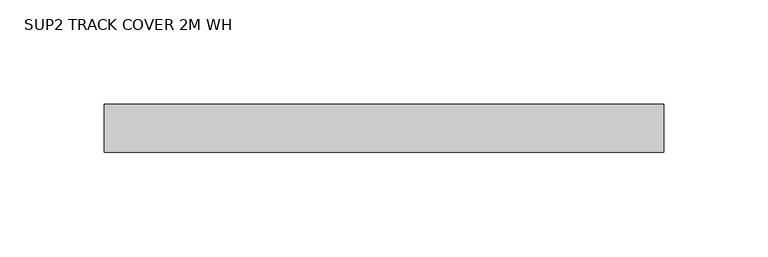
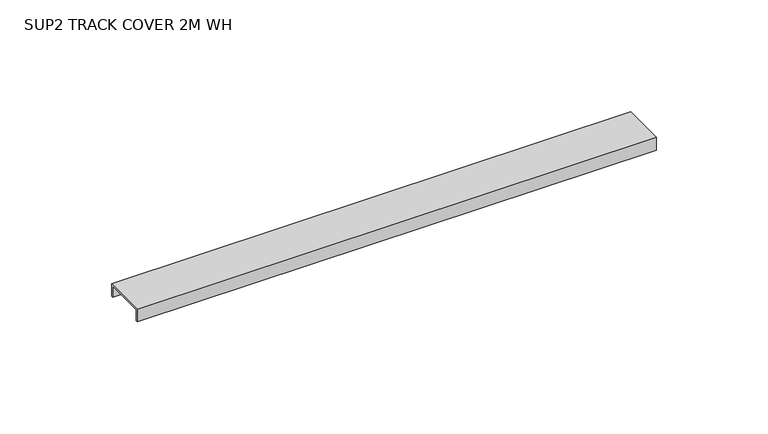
"""IFC4 building model written with IfcOpenShell, lengths in millimetres: light fixture geometry, Zumtobel SUP2 TRACK COVER 2M WH : SUP2 TRACK COVER 2M WH."""

from ifc_helpers import new_model, si_unit, frame, origin, place, context, project, spatial, polyline, outline, extrude, source, transform, mapped, element, save


def sup2_track_cover_2m_wh_c25d9a2b(model_context):
    return source(origin(), model_context, "Body", "SweptSolid", [
        extrude(outline(polyline([(-11.5, 0.0), (11.5, 0.0), (11.5, -7.0), (10.5, -7.0), (10.5, -1.0), (-10.5, -1.0), (-10.5, -7.0), (-11.5, -7.0), (-11.5, 0.0)])), frame((399.5000048, 0.0, 0.0), z_axis=(1.0, 0.0, 0.0), x_axis=(0.0, 1.0, 0.0)), (0.0, 0.0, 1.0), 268.2173497),
    ])


if __name__ == "__main__":
    model = new_model("IFC4")
    model_context = context("Model", 3, world=origin())
    ifc_project = project(units=[si_unit("LENGTHUNIT", "METRE", prefix="MILLI")], contexts=[model_context])
    site = spatial("IfcSite", under=ifc_project)
    building = spatial("IfcBuilding", under=site)
    placement = place(None, origin())
    sup2_track_cover_2m_wh_shape = sup2_track_cover_2m_wh_c25d9a2b(model_context)
    element("IfcLightFixture", 1, ObjectType="Zumtobel SUP2 TRACK COVER 2M WH : SUP2 TRACK COVER 2M WH", at=placement, inside=building, context=model_context, shape_type="MappedRepresentation", body=[
        mapped(sup2_track_cover_2m_wh_shape, transform((0.0, 0.0, 0.0), x_axis=(1.0, 0.0, 0.0), y_axis=(0.0, 1.0, 0.0), z_axis=(0.0, 0.0, 1.0))),
    ])
    save(model, "model.ifc")
